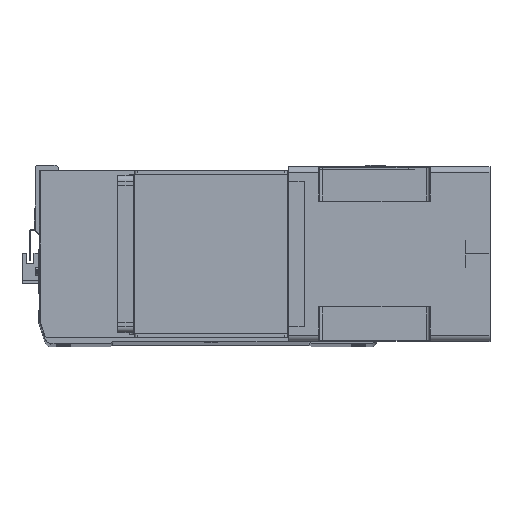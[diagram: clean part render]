
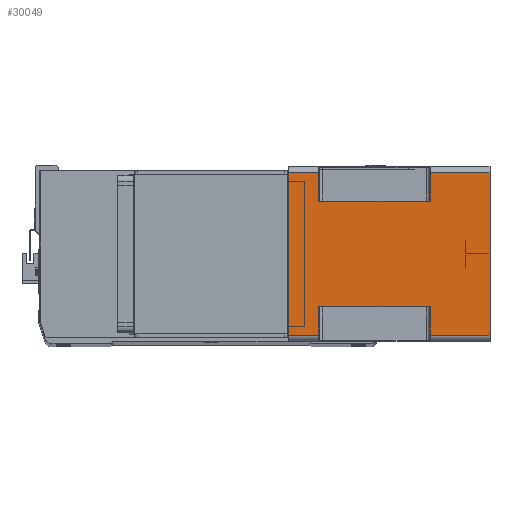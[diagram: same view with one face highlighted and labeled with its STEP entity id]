
A CAD part, top view. The second image highlights one B-rep face of the part: STEP entity #30049.
In plain terms, the highlighted planar face has unit normal (0, 0, 1) as drawn and (1, 0, 0) by its records, which use the part's own axes.
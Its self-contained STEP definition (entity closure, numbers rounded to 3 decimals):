
#214 = CARTESIAN_POINT ( 'NONE',  ( 71., 43., -164. ) ) ;
#255 = ORIENTED_EDGE ( 'NONE', *, *, #27014, .F. ) ;
#292 = ORIENTED_EDGE ( 'NONE', *, *, #23003, .F. ) ;
#410 = AXIS2_PLACEMENT_3D ( 'NONE', #25586, #30483, #10798 ) ;
#869 = VECTOR ( 'NONE', #24460, 1000. ) ;
#1322 = VECTOR ( 'NONE', #29548, 1000. ) ;
#1369 = CARTESIAN_POINT ( 'NONE',  ( 71., 43., -115.5 ) ) ;
#1411 = EDGE_CURVE ( 'NONE', #20007, #19623, #3581, .T. ) ;
#1573 = EDGE_CURVE ( 'NONE', #9005, #18273, #4691, .T. ) ;
#2036 = VECTOR ( 'NONE', #17862, 1000. ) ;
#2345 = VERTEX_POINT ( 'NONE', #9238 ) ;
#2501 = DIRECTION ( 'NONE',  ( 0., 0., 1. ) ) ;
#3002 = ORIENTED_EDGE ( 'NONE', *, *, #16952, .T. ) ;
#3370 = CARTESIAN_POINT ( 'NONE',  ( 71., 66., -164. ) ) ;
#3581 = LINE ( 'NONE', #17232, #22207 ) ;
#3604 = PLANE ( 'NONE',  #410 ) ;
#3731 = ORIENTED_EDGE ( 'NONE', *, *, #30642, .T. ) ;
#3827 = DIRECTION ( 'NONE',  ( 0., -1., 0. ) ) ;
#3844 = CARTESIAN_POINT ( 'NONE',  ( 71., -66., -115.5 ) ) ;
#4075 = CARTESIAN_POINT ( 'NONE',  ( 71., 66., -164. ) ) ;
#4548 = DIRECTION ( 'NONE',  ( 0., 1., 0. ) ) ;
#4691 = LINE ( 'NONE', #25530, #2036 ) ;
#5116 = ORIENTED_EDGE ( 'NONE', *, *, #27329, .T. ) ;
#5384 = CARTESIAN_POINT ( 'NONE',  ( 71., -43., -115.5 ) ) ;
#5518 = CARTESIAN_POINT ( 'NONE',  ( 71., -66., -115.5 ) ) ;
#5842 = DIRECTION ( 'NONE',  ( 0., 0., 1. ) ) ;
#6390 = EDGE_CURVE ( 'NONE', #18273, #2345, #8814, .T. ) ;
#6653 = CARTESIAN_POINT ( 'NONE',  ( 71., -43., -24.5 ) ) ;
#8396 = VERTEX_POINT ( 'NONE', #29210 ) ;
#8436 = LINE ( 'NONE', #3844, #9930 ) ;
#8460 = LINE ( 'NONE', #25808, #13346 ) ;
#8591 = CARTESIAN_POINT ( 'NONE',  ( 71., 43., -24.5 ) ) ;
#8743 = ORIENTED_EDGE ( 'NONE', *, *, #31313, .F. ) ;
#8814 = LINE ( 'NONE', #16120, #30876 ) ;
#9005 = VERTEX_POINT ( 'NONE', #8591 ) ;
#9041 = VERTEX_POINT ( 'NONE', #1369 ) ;
#9238 = CARTESIAN_POINT ( 'NONE',  ( 71., 66., 0. ) ) ;
#9930 = VECTOR ( 'NONE', #30732, 1000. ) ;
#10073 = CARTESIAN_POINT ( 'NONE',  ( 71., -66., 0. ) ) ;
#10108 = VECTOR ( 'NONE', #4548, 1000. ) ;
#10203 = LINE ( 'NONE', #26513, #21626 ) ;
#10798 = DIRECTION ( 'NONE',  ( 0., 1., 0. ) ) ;
#12329 = CARTESIAN_POINT ( 'NONE',  ( 71., -66., -164. ) ) ;
#13346 = VECTOR ( 'NONE', #3827, 1000. ) ;
#14364 = DIRECTION ( 'NONE',  ( 0., 0., 1. ) ) ;
#15331 = CARTESIAN_POINT ( 'NONE',  ( 71., 66., -24.5 ) ) ;
#15667 = VECTOR ( 'NONE', #23638, 1000. ) ;
#16120 = CARTESIAN_POINT ( 'NONE',  ( 71., 66., -164. ) ) ;
#16650 = VERTEX_POINT ( 'NONE', #5518 ) ;
#16952 = EDGE_CURVE ( 'NONE', #26711, #19623, #27871, .T. ) ;
#17170 = ORIENTED_EDGE ( 'NONE', *, *, #6390, .T. ) ;
#17209 = FACE_OUTER_BOUND ( 'NONE', #27702, .T. ) ;
#17232 = CARTESIAN_POINT ( 'NONE',  ( 71., -43., -164. ) ) ;
#17862 = DIRECTION ( 'NONE',  ( 0., 1., 0. ) ) ;
#18273 = VERTEX_POINT ( 'NONE', #15331 ) ;
#18558 = DIRECTION ( 'NONE',  ( 0., 0., 1. ) ) ;
#19183 = CARTESIAN_POINT ( 'NONE',  ( 71., -66., 0. ) ) ;
#19380 = EDGE_CURVE ( 'NONE', #22125, #28915, #31076, .T. ) ;
#19448 = LINE ( 'NONE', #214, #869 ) ;
#19548 = EDGE_CURVE ( 'NONE', #28915, #8396, #26836, .T. ) ;
#19623 = VERTEX_POINT ( 'NONE', #27913 ) ;
#19775 = DIRECTION ( 'NONE',  ( 0., 0., 1. ) ) ;
#20007 = VERTEX_POINT ( 'NONE', #5384 ) ;
#21460 = LINE ( 'NONE', #10073, #1322 ) ;
#21626 = VECTOR ( 'NONE', #14364, 1000. ) ;
#21991 = CARTESIAN_POINT ( 'NONE',  ( 71., -66., -24.5 ) ) ;
#22125 = VERTEX_POINT ( 'NONE', #29076 ) ;
#22207 = VECTOR ( 'NONE', #19775, 1000. ) ;
#22629 = ORIENTED_EDGE ( 'NONE', *, *, #1573, .T. ) ;
#23003 = EDGE_CURVE ( 'NONE', #30764, #2345, #21460, .T. ) ;
#23638 = DIRECTION ( 'NONE',  ( 0., 1., 0. ) ) ;
#24460 = DIRECTION ( 'NONE',  ( 0., 0., -1. ) ) ;
#25530 = CARTESIAN_POINT ( 'NONE',  ( 71., -66., -24.5 ) ) ;
#25586 = CARTESIAN_POINT ( 'NONE',  ( 71., -66., -164. ) ) ;
#25730 = ORIENTED_EDGE ( 'NONE', *, *, #19548, .T. ) ;
#25808 = CARTESIAN_POINT ( 'NONE',  ( 71., 43., -115.5 ) ) ;
#26041 = LINE ( 'NONE', #28846, #30236 ) ;
#26513 = CARTESIAN_POINT ( 'NONE',  ( 71., -66., -164. ) ) ;
#26711 = VERTEX_POINT ( 'NONE', #21991 ) ;
#26836 = LINE ( 'NONE', #3370, #29904 ) ;
#27014 = EDGE_CURVE ( 'NONE', #9005, #9041, #19448, .T. ) ;
#27329 = EDGE_CURVE ( 'NONE', #8396, #9041, #8460, .T. ) ;
#27702 = EDGE_LOOP ( 'NONE', ( #28037, #3731, #28899, #28218, #25730, #5116, #255, #22629, #17170, #292, #8743, #3002 ) ) ;
#27871 = LINE ( 'NONE', #6653, #15667 ) ;
#27913 = CARTESIAN_POINT ( 'NONE',  ( 71., -43., -24.5 ) ) ;
#28037 = ORIENTED_EDGE ( 'NONE', *, *, #1411, .F. ) ;
#28218 = ORIENTED_EDGE ( 'NONE', *, *, #19380, .T. ) ;
#28846 = CARTESIAN_POINT ( 'NONE',  ( 71., -66., -164. ) ) ;
#28899 = ORIENTED_EDGE ( 'NONE', *, *, #29023, .F. ) ;
#28915 = VERTEX_POINT ( 'NONE', #4075 ) ;
#29023 = EDGE_CURVE ( 'NONE', #22125, #16650, #26041, .T. ) ;
#29076 = CARTESIAN_POINT ( 'NONE',  ( 71., -66., -164. ) ) ;
#29210 = CARTESIAN_POINT ( 'NONE',  ( 71., 66., -115.5 ) ) ;
#29548 = DIRECTION ( 'NONE',  ( 0., 1., 0. ) ) ;
#29904 = VECTOR ( 'NONE', #5842, 1000. ) ;
#30049 = ADVANCED_FACE ( 'NONE', ( #17209 ), #3604, .T. ) ;
#30236 = VECTOR ( 'NONE', #2501, 1000. ) ;
#30483 = DIRECTION ( 'NONE',  ( 1., 0., 0. ) ) ;
#30642 = EDGE_CURVE ( 'NONE', #20007, #16650, #8436, .T. ) ;
#30732 = DIRECTION ( 'NONE',  ( 0., -1., 0. ) ) ;
#30764 = VERTEX_POINT ( 'NONE', #19183 ) ;
#30876 = VECTOR ( 'NONE', #18558, 1000. ) ;
#31076 = LINE ( 'NONE', #12329, #10108 ) ;
#31313 = EDGE_CURVE ( 'NONE', #26711, #30764, #10203, .T. ) ;
